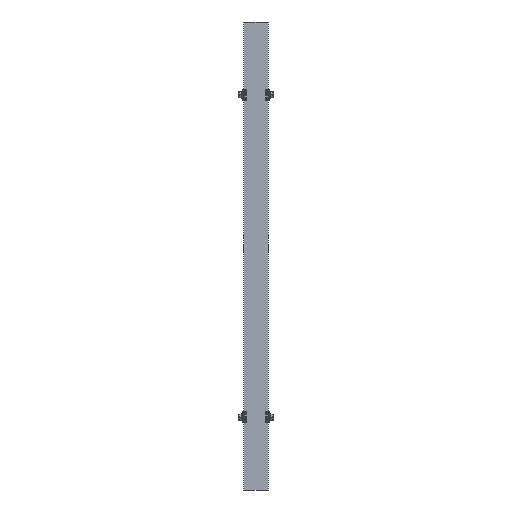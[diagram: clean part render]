
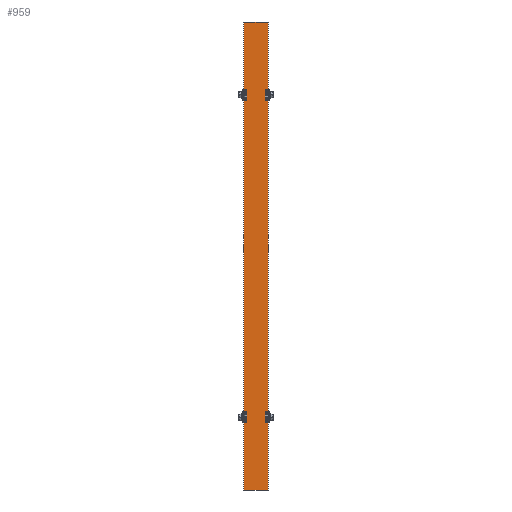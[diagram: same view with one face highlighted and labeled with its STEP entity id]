
A CAD part, front view. The second image highlights one B-rep face of the part: STEP entity #959.
In plain terms, the highlighted planar face has unit normal (0, -1, 0).
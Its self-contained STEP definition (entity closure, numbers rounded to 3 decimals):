
#86=DIRECTION('',(0.,0.,1.));
#87=VECTOR('',#86,642.);
#88=CARTESIAN_POINT('',(-16.6,0.,-321.));
#89=LINE('',#88,#87);
#93=DIRECTION('',(1.,0.,0.));
#94=VECTOR('',#93,33.2);
#95=CARTESIAN_POINT('',(-16.6,0.,321.));
#96=LINE('',#95,#94);
#100=DIRECTION('',(0.,0.,-1.));
#101=VECTOR('',#100,642.);
#102=CARTESIAN_POINT('',(16.6,0.,321.));
#103=LINE('',#102,#101);
#107=DIRECTION('',(-1.,0.,0.));
#108=VECTOR('',#107,33.2);
#109=CARTESIAN_POINT('',(16.6,0.,-321.));
#110=LINE('',#109,#108);
#808=CARTESIAN_POINT('',(-16.6,0.,-321.));
#809=CARTESIAN_POINT('',(-16.6,0.,321.));
#810=VERTEX_POINT('',#808);
#811=VERTEX_POINT('',#809);
#812=CARTESIAN_POINT('',(16.6,0.,321.));
#813=VERTEX_POINT('',#812);
#814=CARTESIAN_POINT('',(16.6,0.,-321.));
#815=VERTEX_POINT('',#814);
#944=CARTESIAN_POINT('',(0.,0.,0.));
#945=DIRECTION('',(0.,1.,0.));
#946=DIRECTION('',(1.,0.,0.));
#947=AXIS2_PLACEMENT_3D('',#944,#945,#946);
#948=PLANE('',#947);
#950=ORIENTED_EDGE('',*,*,#949,.T.);
#952=ORIENTED_EDGE('',*,*,#951,.T.);
#954=ORIENTED_EDGE('',*,*,#953,.T.);
#956=ORIENTED_EDGE('',*,*,#955,.T.);
#957=EDGE_LOOP('',(#950,#952,#954,#956));
#958=FACE_OUTER_BOUND('',#957,.F.);
#959=ADVANCED_FACE('',(#958),#948,.F.);
#949=EDGE_CURVE('',#810,#811,#89,.T.);
#951=EDGE_CURVE('',#811,#813,#96,.T.);
#953=EDGE_CURVE('',#813,#815,#103,.T.);
#955=EDGE_CURVE('',#815,#810,#110,.T.);
